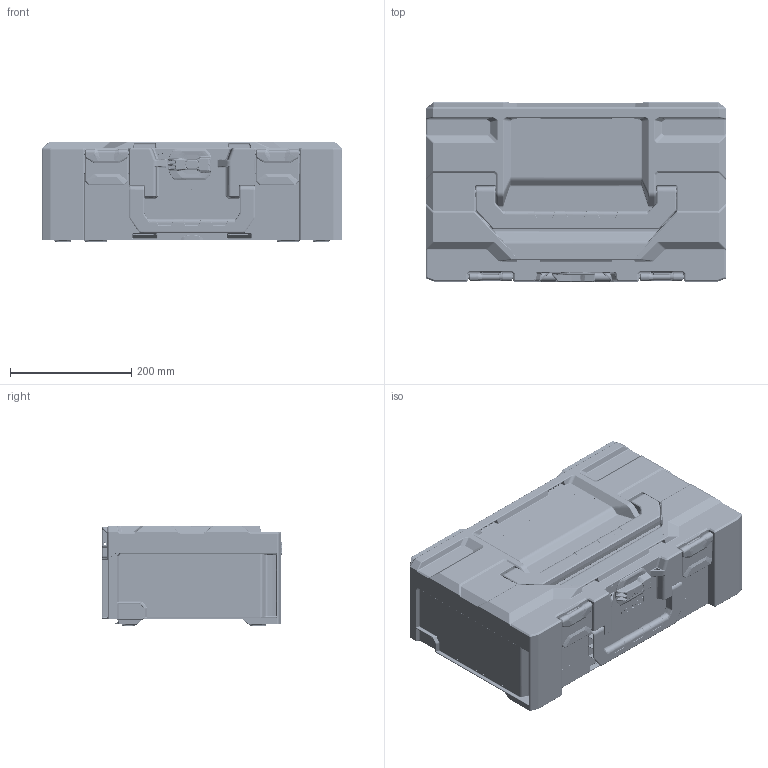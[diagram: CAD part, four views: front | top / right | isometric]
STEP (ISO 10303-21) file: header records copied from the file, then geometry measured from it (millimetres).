
FILE_DESCRIPTION(/* description */ (''),/* implementation_level */ '2;1');
FILE_NAME(/* name */ 'metaBOX_165_L_Neutral.stp',/* time_stamp */ '2020-06-16T16:33:07+02:00',/* author */ (''),/* organization */ (''),/* preprocessor_version */ 'ST-DEVELOPER v16.7',/* originating_system */ 'SIEMENS PLM Software NX 12.0',/* authorisation */ '');
FILE_SCHEMA (('AUTOMOTIVE_DESIGN { 1 0 10303 214 3 1 1 1 }'));
Products named in the file (1): BU740C6CC2yd5z
Bounding box: 496 x 296.4 x 165 mm (x, y, z)
Volume: 1879822.6 mm3; surface area: 1525702.1 mm2
Topology: 7 solids, 8 shells, 13811 faces, 34033 edges, 19778 vertices
Faces by surface type: bspline 5344, cylinder 4538, plane 3079, sphere 380, cone 263, torus 201, extrusion 6
Full cylindrical faces by diameter (mm): 4 x12
Entity records: 532718 total; most frequent: CARTESIAN_POINT 240721, ORIENTED_EDGE 66698, DIRECTION 54407, EDGE_CURVE 33351, AXIS2_PLACEMENT_3D 21153, VERTEX_POINT 19734, EDGE_LOOP 14102, ADVANCED_FACE 13807
